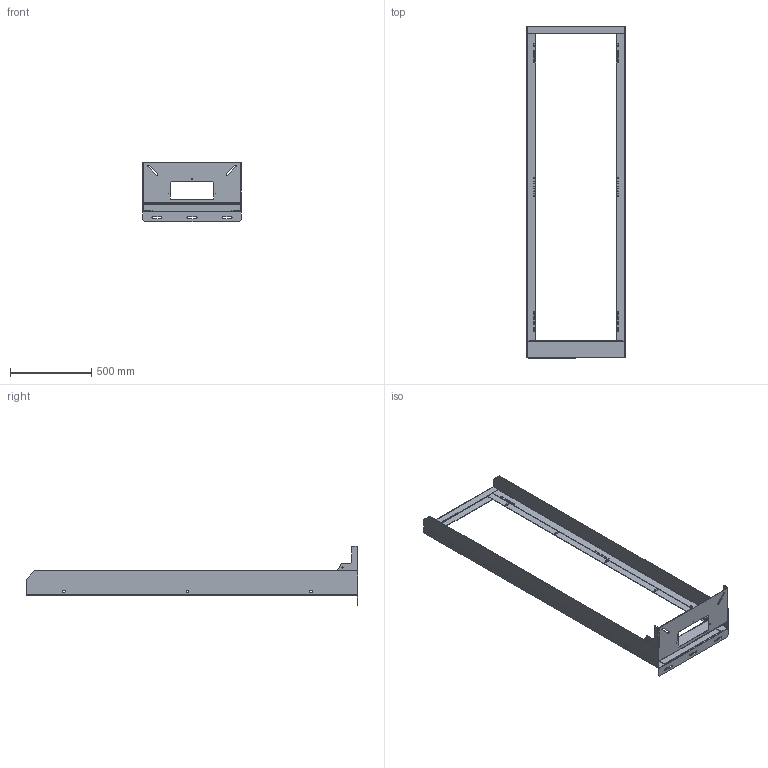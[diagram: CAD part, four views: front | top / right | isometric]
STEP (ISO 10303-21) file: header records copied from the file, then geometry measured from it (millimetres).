
FILE_DESCRIPTION (( 'STEP AP203' ), '1' );
FILE_NAME ('62457.STEP', '2026-01-12T14:15:27', ( '' ), ( '' ), 'SwSTEP 2.0', 'SolidWorks 2024', '' );
FILE_SCHEMA (( 'CONFIG_CONTROL_DESIGN' ));
Length unit declared in the file: inch
Products named in the file (8): 89250174; 89250175; 89250287; 89250176; 89250177; 89250172_WITH HELLCAT; 89250173; 62457
Assembly tree (8 placements, depth 3):
  62457
    89250172_WITH HELLCAT
      89250287
      89250173
      89250174  x2
      89250175
      89250176
      89250177
Bounding box: 609.6 x 2045.97 x 368.3 mm (x, y, z)
Volume: 4860619.6 mm3; surface area: 3078044.9 mm2
Topology: 7 solids, 7 shells, 868 faces, 2236 edges, 1438 vertices
Faces by surface type: plane 640, cylinder 228
Entity records: 24347 total; most frequent: CARTESIAN_POINT 4058, ORIENTED_EDGE 3978, DIRECTION 3949, EDGE_CURVE 1989, VECTOR 1603, LINE 1603, VERTEX_POINT 1282, AXIS2_PLACEMENT_3D 1173
